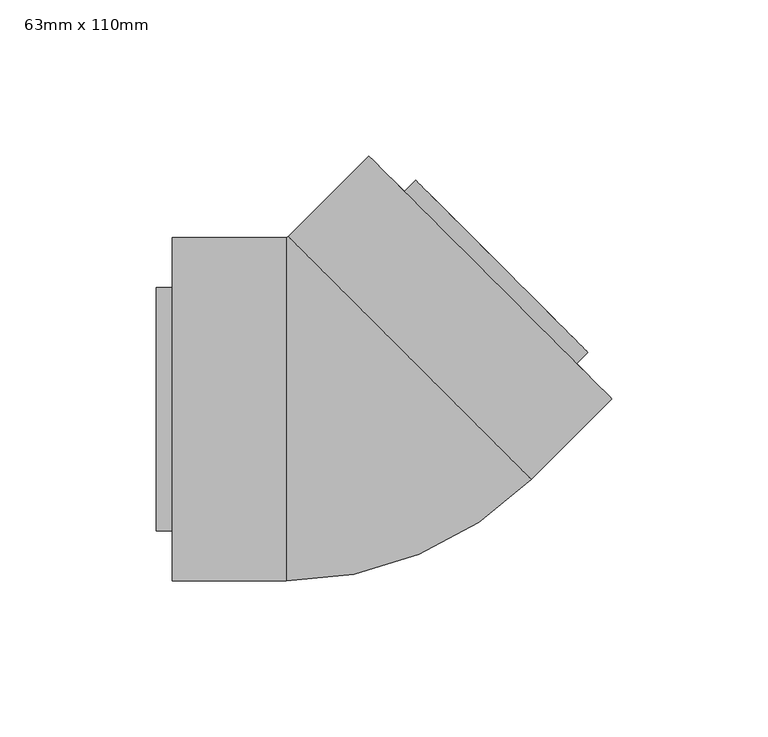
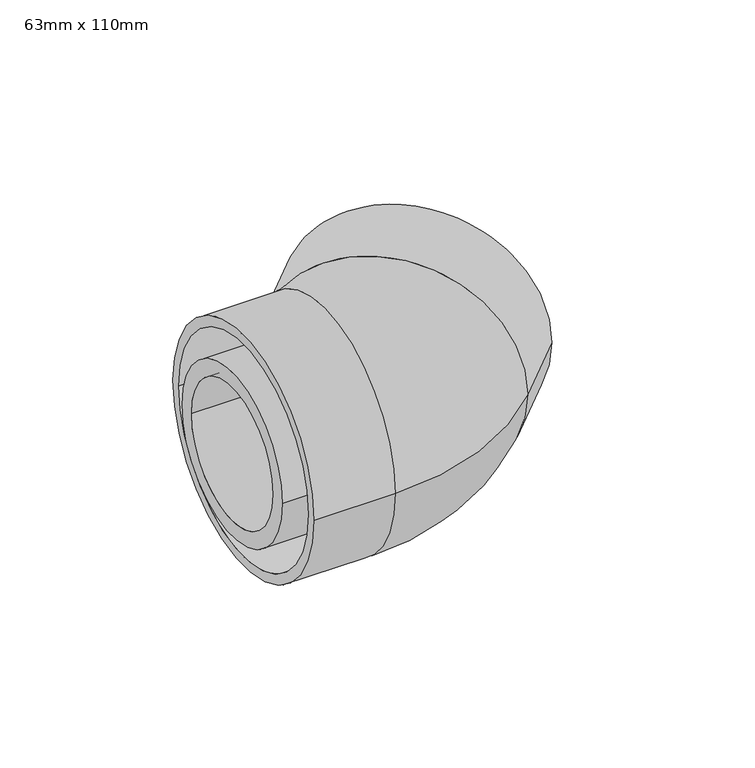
"""IFC4 building model written with IfcOpenShell, lengths in millimetres: pipe fitting geometry, Durapipe_PipeFittings_PLX_CloseFit_45Elbow : 63mm x 110mm."""

from ifc_helpers import new_model, si_unit, point, frame, origin, place, context, project, spatial, polyline, circle_curve, ellipse_curve, trimmed, source, transform, mapped, element, save
from ifc_brep_helpers import plane_surface, cylinder_surface, revolved_surface, advanced_brep


def pipe_fitting_63mm_x_110mm_ed71349d(model_context):
    return source(origin(), model_context, "Body", "AdvancedBrep", [
        advanced_brep(
        [(-59.7, -55.0, 0.0), (-59.7, 55.0, 0.0), (-59.7, -50.5, 0.0), (-59.7, 50.5, 0.0), (-23.1959595, -55.0, 0.0), (-23.1959595, 55.0, 0.0), (-23.1959595, -50.5, 0.0), (-23.1959595, 50.5, 0.0), (-22.4888527, 55.2928932, 0.0), (55.2928932, -22.4888527, 0.0), (-19.3068722, 52.1109127, 0.0), (52.1109127, -19.3068722, 0.0), (81.1051478, 3.3234019, 0.0), (3.3234019, 81.1051478, 0.0), (77.9231673, 6.5053824, 0.0), (6.5053824, 77.9231673, 0.0)],
        [
            (0, 1, circle_curve(frame((-59.7, 0.0, 0.0), z_axis=(-1.0, 0.0, 0.0), x_axis=(0.0, 1.0, 0.0)), 55.0)),
            (1, 0, circle_curve(frame((-59.7, 0.0, 0.0), z_axis=(-1.0, 0.0, 0.0), x_axis=(0.0, 1.0, 0.0)), 55.0)),
            (2, 3, circle_curve(frame((-59.7, 0.0, 0.0), z_axis=(1.0, 0.0, 0.0), x_axis=(0.0, 1.0, 0.0)), 50.5)),
            (3, 2, circle_curve(frame((-59.7, 0.0, 0.0), z_axis=(1.0, 0.0, 0.0), x_axis=(0.0, 1.0, 0.0)), 50.5)),
            (0, 4),
            (4, 5, circle_curve(frame((-23.1959595, 0.0, 0.0), z_axis=(-1.0, 0.0, 0.0), x_axis=(0.0, 1.0, 0.0)), 55.0)),
            (5, 1),
            (5, 4, circle_curve(frame((-23.1959595, 0.0, 0.0), z_axis=(-1.0, 0.0, 0.0), x_axis=(0.0, 1.0, 0.0)), 55.0)),
            (2, 6),
            (6, 7, circle_curve(frame((-23.1959595, 0.0, 0.0), z_axis=(1.0, 0.0, 0.0), x_axis=(0.0, 1.0, 0.0)), 50.5)),
            (7, 3),
            (7, 6, circle_curve(frame((-23.1959595, 0.0, 0.0), z_axis=(1.0, 0.0, 0.0), x_axis=(0.0, 1.0, 0.0)), 50.5)),
            (8, 5, circle_curve(frame((-23.1959595, 56.0, 0.0), z_axis=(0.0, 0.0, -1.0), x_axis=(0.0, -1.0, 0.0)), 1.0)),
            (4, 9, circle_curve(frame((-23.1959595, 56.0, 0.0), z_axis=(0.0, 0.0, 1.0), x_axis=(0.0, -1.0, 0.0)), 111.0)),
            (9, 8, circle_curve(frame((16.4020203, 16.4020203, 0.0), z_axis=(-0.7071067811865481, -0.7071067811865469, 0.0), x_axis=(-0.7071067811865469, 0.7071067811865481, 0.0)), 55.0)),
            (8, 9, circle_curve(frame((16.4020203, 16.4020203, 0.0), z_axis=(-0.7071067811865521, -0.7071067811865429, 0.0), x_axis=(-0.7071067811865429, 0.7071067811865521, 0.0)), 55.0)),
            (10, 7, circle_curve(frame((-23.1959595, 56.0, 0.0), z_axis=(0.0, 0.0, -1.0), x_axis=(0.0, -1.0, 0.0)), 5.5)),
            (6, 11, circle_curve(frame((-23.1959595, 56.0, 0.0), z_axis=(0.0, 0.0, 1.0), x_axis=(0.0, -1.0, 0.0)), 106.5)),
            (11, 10, circle_curve(frame((16.4020203, 16.4020203, 0.0), z_axis=(0.7071067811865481, 0.7071067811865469, 0.0), x_axis=(-0.7071067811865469, 0.7071067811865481, 0.0)), 50.5)),
            (10, 11, circle_curve(frame((16.4020203, 16.4020203, 0.0), z_axis=(0.7071067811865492, 0.7071067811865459, 0.0), x_axis=(-0.7071067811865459, 0.7071067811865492, 0.0)), 50.5)),
            (12, 13, circle_curve(frame((42.2142748, 42.2142748, 0.0), z_axis=(0.7071067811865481, 0.707106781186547, 0.0), x_axis=(-0.707106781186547, 0.7071067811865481, 0.0)), 55.0)),
            (13, 12, circle_curve(frame((42.2142748, 42.2142748, 0.0), z_axis=(0.7071067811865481, 0.707106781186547, 0.0), x_axis=(-0.707106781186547, 0.7071067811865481, 0.0)), 55.0)),
            (14, 15, circle_curve(frame((42.2142748, 42.2142748, 0.0), z_axis=(-0.7071067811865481, -0.707106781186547, 0.0), x_axis=(-0.707106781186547, 0.7071067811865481, 0.0)), 50.5)),
            (15, 14, circle_curve(frame((42.2142748, 42.2142748, 0.0), z_axis=(-0.7071067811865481, -0.707106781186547, 0.0), x_axis=(-0.707106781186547, 0.7071067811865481, 0.0)), 50.5)),
            (9, 12),
            (13, 8),
            (11, 14),
            (15, 10),
        ],
        [
            plane_surface(frame((-59.7, 0.0, 0.0), z_axis=(-1.0, 0.0, 0.0), x_axis=(0.0, 0.0, 1.0))),
            cylinder_surface(frame((-59.7, 0.0, 0.0), z_axis=(-1.0, 0.0, 0.0), x_axis=(0.0, 1.0, 0.0)), 55.0),
            revolved_surface(polyline([(-23.1959595, 50.5, 0.0), (-59.7, 50.5, 0.0)]), (-59.7, 0.0, 0.0), (1.0, 0.0, 0.0)),
            revolved_surface(trimmed(ellipse_curve(frame((-23.1959595, 0.0, 0.0), z_axis=(-1.0, 0.0, 0.0), x_axis=(0.0, 1.0, 0.0)), 55.0, 55.0), [point((-23.1959595, -55.0, 0.0))], [point((-23.1959595, 55.0, 0.0))], True, "CARTESIAN"), (-23.1959595, 56.0, 0.0), (0.0, 0.0, 1.0)),
            revolved_surface(trimmed(ellipse_curve(frame((-23.1959595, 0.0, 0.0), z_axis=(-1.0, 0.0, 0.0), x_axis=(0.0, 1.0, 0.0)), 55.0, 55.0), [point((-23.1959595, 55.0, 0.0))], [point((-23.1959595, -55.0, 0.0))], True, "CARTESIAN"), (-23.1959595, 56.0, 0.0), (0.0, 0.0, 1.0)),
            revolved_surface(trimmed(ellipse_curve(frame((-23.1959595, 0.0, 0.0), z_axis=(1.0, 0.0, 0.0), x_axis=(0.0, 1.0, 0.0)), 50.5, 50.5), [point((-23.1959595, -50.5, 0.0))], [point((-23.1959595, 50.5, 0.0))], True, "CARTESIAN"), (-23.1959595, 56.0, 0.0), (0.0, 0.0, 1.0)),
            revolved_surface(trimmed(ellipse_curve(frame((-23.1959595, 0.0, 0.0), z_axis=(1.0, 0.0, 0.0), x_axis=(0.0, 1.0, 0.0)), 50.5, 50.5), [point((-23.1959595, 50.5, 0.0))], [point((-23.1959595, -50.5, 0.0))], True, "CARTESIAN"), (-23.1959595, 56.0, 0.0), (0.0, 0.0, 1.0)),
            plane_surface(frame((42.2142748, 42.2142748, 0.0), z_axis=(0.7071067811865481, 0.707106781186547, 0.0), x_axis=(0.0, 0.0, 1.0))),
            cylinder_surface(frame((16.4020203, 16.4020203, 0.0), z_axis=(-0.7071067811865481, -0.707106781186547, 0.0), x_axis=(-0.707106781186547, 0.7071067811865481, 0.0)), 55.0),
            revolved_surface(polyline([(6.50538240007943, 77.92316729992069, 0.0), (-19.306872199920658, 52.110912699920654, 0.0)]), (16.4020203, 16.4020203, 0.0), (0.7071067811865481, 0.707106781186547, 0.0)),
        ],
        [
            (0, [[1, 2], [3, 4]]),
            (1, [[-1, 5, 6, 7]]),
            (1, [[-2, -7, 8, -5]]),
            (2, [[-3, 9, 10, 11]]),
            (2, [[-4, -11, 12, -9]]),
            (3, [[13, -6, 14, 15]]),
            (4, [[-14, -8, -13, 16]]),
            (5, [[17, -10, 18, 19]]),
            (6, [[-18, -12, -17, 20]]),
            (7, [[21, 22], [23, 24]]),
            (8, [[-15, 25, -22, 26]]),
            (8, [[-16, -26, -21, -25]]),
            (9, [[-19, 27, -24, 28]]),
            (9, [[-20, -28, -23, -27]]),
        ],
    ),
        advanced_brep(
        [(-16.5685425, 39.0, 0.0), (-16.5685425, -39.0, 0.0), (39.2928932, -15.8614357, 0.0), (-15.8614357, 39.2928932, 0.0), (-64.8, -39.0, 0.0), (-64.8, 39.0, 0.0), (-64.8, -31.7, 0.0), (-64.8, 31.7, 0.0), (18.243355, 73.3976839, 0.0), (73.3976839, 18.243355, 0.0), (45.8205194, 45.8205194, 31.7), (45.8205194, 45.8205194, -31.7), (-20.8, 31.7, 0.0), (-20.8, -31.7, 0.0), (14.707821, 14.707821, -31.7), (14.707821, 14.707821, 31.7)],
        [
            (0, 1, circle_curve(frame((-16.5685425, 0.0, 0.0), z_axis=(1.0, 0.0, 0.0), x_axis=(0.0, 1.0, 0.0)), 39.0)),
            (1, 2, circle_curve(frame((-16.5685425, 40.0, 0.0), z_axis=(0.0, 0.0, 1.0), x_axis=(0.0, -1.0, 0.0)), 79.0)),
            (2, 3, circle_curve(frame((11.7157288, 11.7157288, 0.0), z_axis=(-0.7071067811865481, -0.7071067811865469, 0.0), x_axis=(-0.7071067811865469, 0.7071067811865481, 0.0)), 39.0)),
            (3, 0, circle_curve(frame((-16.5685425, 40.0, 0.0), z_axis=(0.0, 0.0, -1.0), x_axis=(0.0, -1.0, 0.0)), 1.0)),
            (1, 0, circle_curve(frame((-16.5685425, 0.0, 0.0), z_axis=(1.0, 0.0, 0.0), x_axis=(0.0, 1.0, 0.0)), 39.0)),
            (3, 2, circle_curve(frame((11.7157288, 11.7157288, 0.0), z_axis=(-0.7071067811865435, -0.7071067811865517, 0.0), x_axis=(-0.7071067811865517, 0.7071067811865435, 0.0)), 39.0)),
            (4, 5, circle_curve(frame((-64.8, 0.0, 0.0), z_axis=(-1.0, 0.0, 0.0), x_axis=(0.0, 1.0, 0.0)), 39.0)),
            (5, 4, circle_curve(frame((-64.8, 0.0, 0.0), z_axis=(-1.0, 0.0, 0.0), x_axis=(0.0, 1.0, 0.0)), 39.0)),
            (6, 7, circle_curve(frame((-64.8, 0.0, 0.0), z_axis=(1.0, 0.0, 0.0), x_axis=(0.0, -1.0, 0.0)), 31.7)),
            (7, 6, circle_curve(frame((-64.8, 0.0, 0.0), z_axis=(1.0, 0.0, 0.0), x_axis=(0.0, -1.0, 0.0)), 31.7)),
            (8, 9, circle_curve(frame((45.8205194, 45.8205194, 0.0), z_axis=(0.7071067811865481, 0.707106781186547, 0.0), x_axis=(-0.707106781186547, 0.7071067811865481, 0.0)), 39.0)),
            (9, 8, circle_curve(frame((45.8205194, 45.8205194, 0.0), z_axis=(0.7071067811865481, 0.707106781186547, 0.0), x_axis=(-0.707106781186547, 0.7071067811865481, 0.0)), 39.0)),
            (10, 11, circle_curve(frame((45.8205194, 45.8205194, 0.0), z_axis=(-0.7071067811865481, -0.707106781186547, 0.0), x_axis=(0.0, 0.0, 1.0)), 31.7)),
            (11, 10, circle_curve(frame((45.8205194, 45.8205194, 0.0), z_axis=(-0.7071067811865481, -0.707106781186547, 0.0), x_axis=(0.0, 0.0, 1.0)), 31.7)),
            (0, 5),
            (4, 1),
            (2, 9),
            (8, 3),
            (12, 13, circle_curve(frame((-20.8, 0.0, 0.0), z_axis=(-1.0, 0.0, 0.0), x_axis=(0.0, -1.0, 0.0)), 31.7)),
            (13, 12, circle_curve(frame((-20.8, 0.0, 0.0), z_axis=(-1.0, 0.0, 0.0), x_axis=(0.0, -1.0, 0.0)), 31.7)),
            (12, 7),
            (6, 13),
            (14, 15, circle_curve(frame((14.707821, 14.707821, 0.0), z_axis=(0.7071067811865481, 0.707106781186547, 0.0), x_axis=(0.0, 0.0, 1.0)), 31.7)),
            (15, 14, circle_curve(frame((14.707821, 14.707821, 0.0), z_axis=(0.7071067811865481, 0.707106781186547, 0.0), x_axis=(0.0, 0.0, 1.0)), 31.7)),
            (14, 11),
            (10, 15),
        ],
        [
            revolved_surface(trimmed(ellipse_curve(frame((-16.5685425, 0.0, 0.0), z_axis=(-1.0, 0.0, 0.0), x_axis=(0.0, 1.0, 0.0)), 39.0, 39.0), [point((-16.5685425, -39.0, 0.0))], [point((-16.5685425, 39.0, 0.0))], True, "CARTESIAN"), (-16.5685425, 40.0, 0.0), (0.0, 0.0, 1.0)),
            revolved_surface(trimmed(ellipse_curve(frame((-16.5685425, 0.0, 0.0), z_axis=(-1.0, 0.0, 0.0), x_axis=(0.0, 1.0, 0.0)), 39.0, 39.0), [point((-16.5685425, 39.0, 0.0))], [point((-16.5685425, -39.0, 0.0))], True, "CARTESIAN"), (-16.5685425, 40.0, 0.0), (0.0, 0.0, 1.0)),
            plane_surface(frame((-64.8, 0.0, 0.0), z_axis=(-1.0, 0.0, 0.0), x_axis=(0.0, 0.0, 1.0))),
            plane_surface(frame((45.8205194, 45.8205194, 0.0), z_axis=(0.7071067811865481, 0.707106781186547, 0.0), x_axis=(0.0, 0.0, 1.0))),
            cylinder_surface(frame((-64.8, 0.0, 0.0), z_axis=(-1.0, 0.0, 0.0), x_axis=(0.0, 1.0, 0.0)), 39.0),
            cylinder_surface(frame((11.7157288, 11.7157288, 0.0), z_axis=(-0.7071067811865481, -0.707106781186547, 0.0), x_axis=(-0.707106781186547, 0.7071067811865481, 0.0)), 39.0),
            plane_surface(frame((-20.8, -31.7, 0.0), z_axis=(-1.0, 0.0, 0.0), x_axis=(0.0, 0.0, -1.0))),
            revolved_surface(polyline([(-64.8, -31.7, 0.0), (-20.8, -31.7, 0.0)]), (-20.8, 0.0, 0.0), (-1.0, 0.0, 0.0)),
            plane_surface(frame((14.707821, 14.707821, 31.7), z_axis=(0.7071067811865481, 0.707106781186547, 0.0), x_axis=(-0.707106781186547, 0.7071067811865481, 0.0))),
            revolved_surface(polyline([(45.82051940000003, 45.82051939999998, 31.7), (14.707821, 14.707821, 31.7)]), (14.707821, 14.707821, 0.0), (0.7071067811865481, 0.707106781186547, 0.0)),
        ],
        [
            (0, [[1, 2, 3, 4]]),
            (1, [[5, -4, 6, -2]]),
            (2, [[7, 8], [9, 10]]),
            (3, [[11, 12], [13, 14]]),
            (4, [[-1, 15, -7, 16]]),
            (4, [[-5, -16, -8, -15]]),
            (5, [[-3, 17, -11, 18]]),
            (5, [[-6, -18, -12, -17]]),
            (6, [[19, 20]]),
            (7, [[-19, 21, -9, 22]]),
            (7, [[-20, -22, -10, -21]]),
            (8, [[23, 24]]),
            (9, [[-23, 25, -13, 26]]),
            (9, [[-24, -26, -14, -25]]),
        ],
    ),
    ])


if __name__ == "__main__":
    model = new_model("IFC4")
    model_context = context("Model", 3, world=origin())
    ifc_project = project(units=[si_unit("LENGTHUNIT", "METRE", prefix="MILLI")], contexts=[model_context])
    site = spatial("IfcSite", under=ifc_project)
    building = spatial("IfcBuilding", under=site)
    placement = place(None, origin())
    pipe_fitting_63mm_x_110mm_shape = pipe_fitting_63mm_x_110mm_ed71349d(model_context)
    element("IfcPipeFitting", 1, ObjectType="Durapipe_PipeFittings_PLX_CloseFit_45Elbow : 63mm x 110mm", at=placement, inside=building, context=model_context, shape_type="MappedRepresentation", body=[
        mapped(pipe_fitting_63mm_x_110mm_shape, transform((0.0, 0.0, 0.0), x_axis=(1.0, 0.0, 0.0), y_axis=(0.0, 1.0, 0.0), z_axis=(0.0, 0.0, 1.0))),
    ])
    save(model, "model.ifc")
